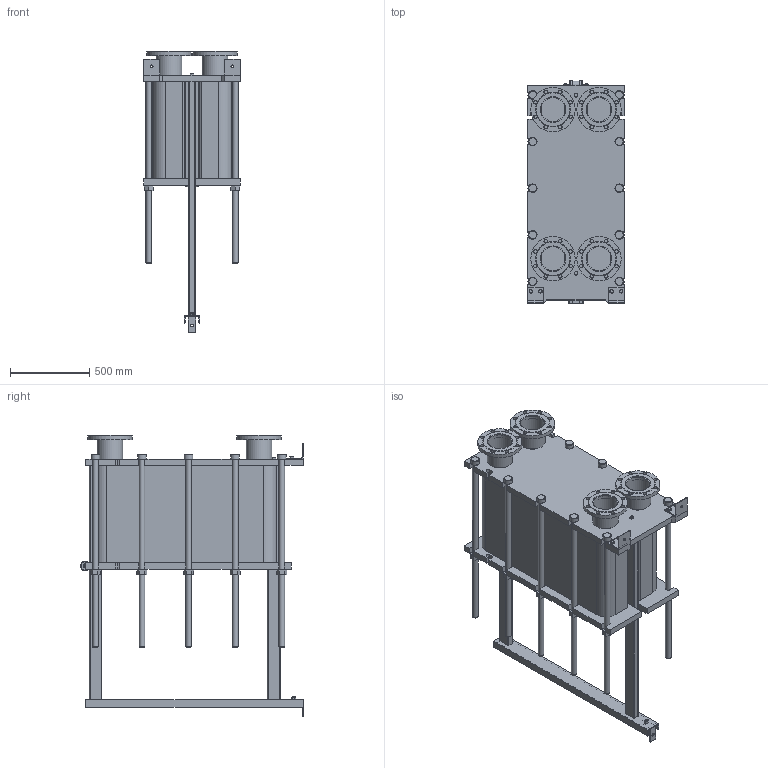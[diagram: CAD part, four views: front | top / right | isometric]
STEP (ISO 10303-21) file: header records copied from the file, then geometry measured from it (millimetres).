
FILE_DESCRIPTION(/* description */ (''),/* implementation_level */ '2;1');
FILE_NAME(/* name */ 'C:\Users\zhuro\Desktop\ENCO\TO\ЭН-041\ЭН-0,5-041-178-1.stp',/* time_stamp */ '2022-06-06T11:05:02+03:00',/* author */ ('zhuro'),/* organization */ (''),/* preprocessor_version */ 'ST-DEVELOPER v18.1',/* originating_system */ 'Autodesk Inventor 2022',/* authorisation */ '');
FILE_SCHEMA (('AUTOMOTIVE_DESIGN { 1 0 10303 214 3 1 1 }'));
Length unit declared in the file: millimetre
Products named in the file (1): ЭН-0,5-041-178-1
Bounding box: 610 x 1406.5 x 1775 mm (x, y, z)
Volume: 431347144.4 mm3; surface area: 10744347.2 mm2
Topology: 52 solids, 52 shells, 711 faces, 1696 edges, 1094 vertices
Faces by surface type: plane 487, cylinder 177, cone 41, torus 6
Full cylindrical faces by diameter (mm): 8 x4, 10 x2, 16 x8, 18 x3, 22 x32, 36 x24, 50 x1, 54 x10, 60 x12, 151 x4, 161 x8, 280 x4
Entity records: 22667 total; most frequent: CARTESIAN_POINT 5230, DIRECTION 3644, ORIENTED_EDGE 3392, EDGE_CURVE 1696, AXIS2_PLACEMENT_3D 1272, LINE 1100, VECTOR 1100, VERTEX_POINT 1094
